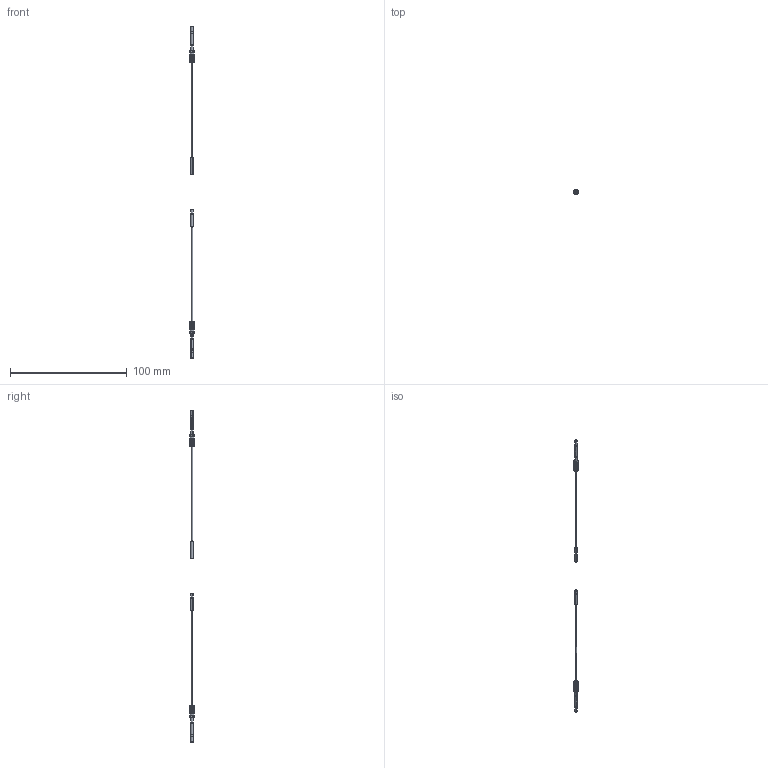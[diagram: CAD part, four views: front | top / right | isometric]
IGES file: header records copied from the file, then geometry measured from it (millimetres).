
Start section: SolidWorks IGES file using analytic representation for surfaces
Bounding box: 4 x 4 x 284 mm (x, y, z)
Surface area: 1706.5 mm2 (no closed solid volume)
Topology: 0 solids, 0 shells, 200 faces, 1708 edges, 1708 vertices
Faces by surface type: bspline 120, revolution 80
